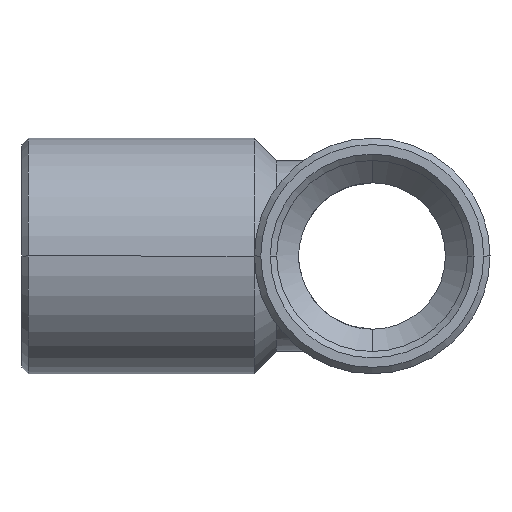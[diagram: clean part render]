
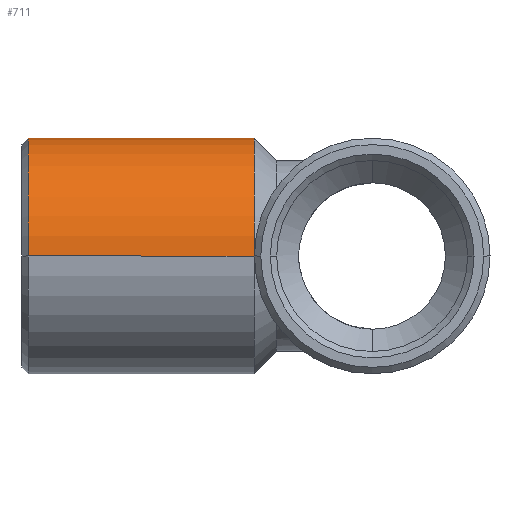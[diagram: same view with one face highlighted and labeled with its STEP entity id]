
A CAD part, left-side view. The second image highlights one B-rep face of the part: STEP entity #711.
In plain terms, the highlighted cylindrical face has radius 3.7 mm (diameter 7.4 mm), a partial arc.
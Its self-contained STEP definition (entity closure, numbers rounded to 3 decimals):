
#119=CARTESIAN_POINT('',(3.7,3.71,0.));
#120=VERTEX_POINT('',#119);
#128=CARTESIAN_POINT('',(0.,3.71,3.7));
#129=VERTEX_POINT('',#128);
#130=CARTESIAN_POINT('',(0.,3.71,0.0));
#131=DIRECTION('',(0.0,1.0,0.0));
#132=DIRECTION('',(-1.0,0.0,0.0));
#133=AXIS2_PLACEMENT_3D('',#130,#131,#132);
#134=CIRCLE('',#133,3.7);
#135=EDGE_CURVE('',#129,#120,#134,.T.);
#671=CARTESIAN_POINT('',(0.,7.355,0.0));
#672=DIRECTION('',(0.,1.0,0.0));
#673=DIRECTION('',(-1.0,0.0,0.0));
#674=AXIS2_PLACEMENT_3D('',#671,#672,#673);
#675=CYLINDRICAL_SURFACE('',#674,3.7);
#676=CARTESIAN_POINT('',(-3.7,3.71,0.0));
#677=VERTEX_POINT('',#676);
#678=CARTESIAN_POINT('',(-3.7,10.8,0.));
#679=VERTEX_POINT('',#678);
#680=CARTESIAN_POINT('',(-3.7,3.71,0.0));
#681=DIRECTION('',(0.0,1.0,0.0));
#682=VECTOR('',#681,7.09);
#683=LINE('',#680,#682);
#684=EDGE_CURVE('',#677,#679,#683,.T.);
#685=ORIENTED_EDGE('',*,*,#684,.F.);
#686=CARTESIAN_POINT('',(0.,3.71,0.0));
#687=DIRECTION('',(0.0,1.0,0.0));
#688=DIRECTION('',(-1.0,0.0,0.0));
#689=AXIS2_PLACEMENT_3D('',#686,#687,#688);
#690=CIRCLE('',#689,3.7);
#691=EDGE_CURVE('',#677,#129,#690,.T.);
#692=ORIENTED_EDGE('',*,*,#691,.T.);
#693=ORIENTED_EDGE('',*,*,#135,.T.);
#694=CARTESIAN_POINT('',(3.7,10.8,0.));
#695=VERTEX_POINT('',#694);
#696=CARTESIAN_POINT('',(3.7,10.8,0.));
#697=DIRECTION('',(0.0,-1.0,0.0));
#698=VECTOR('',#697,7.09);
#699=LINE('',#696,#698);
#700=EDGE_CURVE('',#695,#120,#699,.T.);
#701=ORIENTED_EDGE('',*,*,#700,.F.);
#702=CARTESIAN_POINT('',(0.,10.8,0.0));
#703=DIRECTION('',(0.0,1.0,0.0));
#704=DIRECTION('',(1.0,0.0,0.0));
#705=AXIS2_PLACEMENT_3D('',#702,#703,#704);
#706=CIRCLE('',#705,3.7);
#707=EDGE_CURVE('',#679,#695,#706,.T.);
#708=ORIENTED_EDGE('',*,*,#707,.F.);
#709=EDGE_LOOP('',(#685,#692,#693,#701,#708));
#710=FACE_OUTER_BOUND('',#709,.T.);
#711=ADVANCED_FACE('',(#710),#675,.T.);
